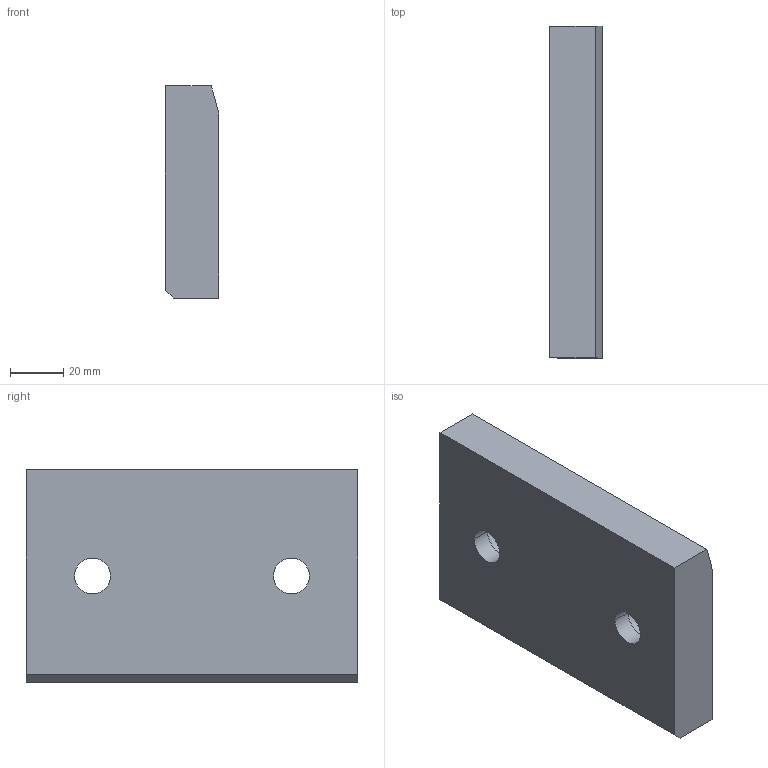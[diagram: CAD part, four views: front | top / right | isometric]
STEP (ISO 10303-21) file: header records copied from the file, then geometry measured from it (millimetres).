
FILE_DESCRIPTION (( 'STEP AP214' ), '1' );
FILE_NAME ('SW224-01-125x80.STEP', '2020-10-14T13:52:55', ( 'August' ), ( '' ), 'SwSTEP 2.0', 'SolidWorks 2018', '' );
FILE_SCHEMA (( 'AUTOMOTIVE_DESIGN' ));
Length unit declared in the file: millimetre
Products named in the file (1): SW224-01-125x80
Bounding box: 20 x 125 x 80 mm (x, y, z)
Volume: 164929.4 mm3; surface area: 38328.6 mm2
Topology: 1 solids, 1 shells, 116 faces, 239 edges, 158 vertices
Faces by surface type: cylinder 71, plane 41, cone 4
Entity records: 3432 total; most frequent: DIRECTION 619, CARTESIAN_POINT 514, ORIENTED_EDGE 478, AXIS2_PLACEMENT_3D 263, EDGE_CURVE 239, VERTEX_POINT 158, EDGE_LOOP 153, CIRCLE 146
